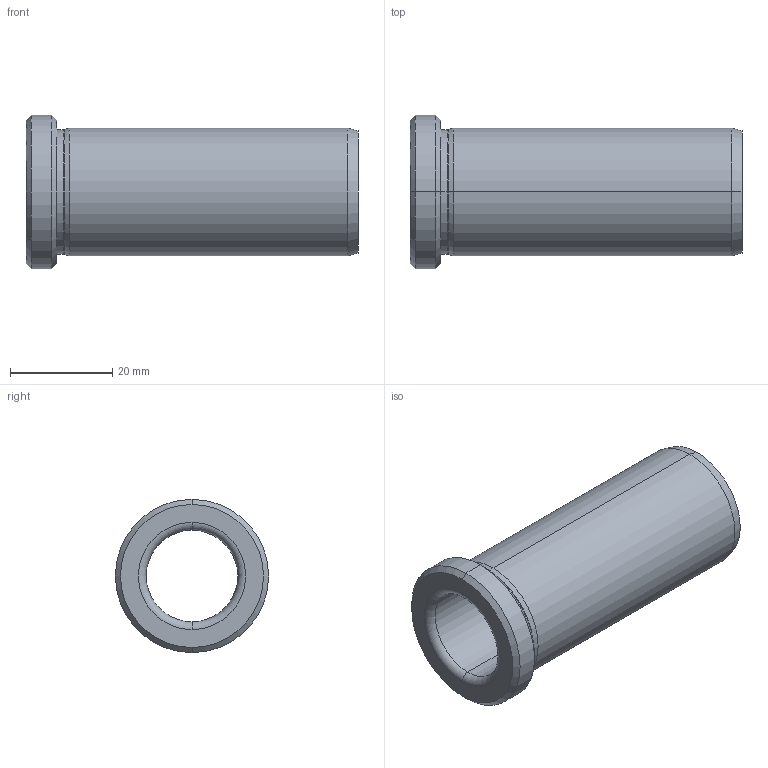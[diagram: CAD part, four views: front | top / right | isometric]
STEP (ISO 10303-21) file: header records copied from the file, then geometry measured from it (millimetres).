
FILE_DESCRIPTION (( 'STEP AP214' ), '1' );
FILE_NAME ('BRCVBG-18X65.STEP', '2020-07-21T12:11:58', ( '' ), ( '' ), 'SwSTEP 2.0', 'SolidWorks 2018', '' );
FILE_SCHEMA (( 'AUTOMOTIVE_DESIGN' ));
Length unit declared in the file: millimetre
Products named in the file (1): BRCVBG-18X65
Bounding box: 65 x 30 x 30 mm (x, y, z)
Volume: 16582 mm3; surface area: 9606.3 mm2
Topology: 1 solids, 1 shells, 26 faces, 52 edges, 30 vertices
Faces by surface type: cylinder 10, cone 8, torus 4, plane 4
Entity records: 716 total; most frequent: DIRECTION 140, CARTESIAN_POINT 109, ORIENTED_EDGE 104, AXIS2_PLACEMENT_3D 61, EDGE_CURVE 52, CIRCLE 34, EDGE_LOOP 30, VERTEX_POINT 30
